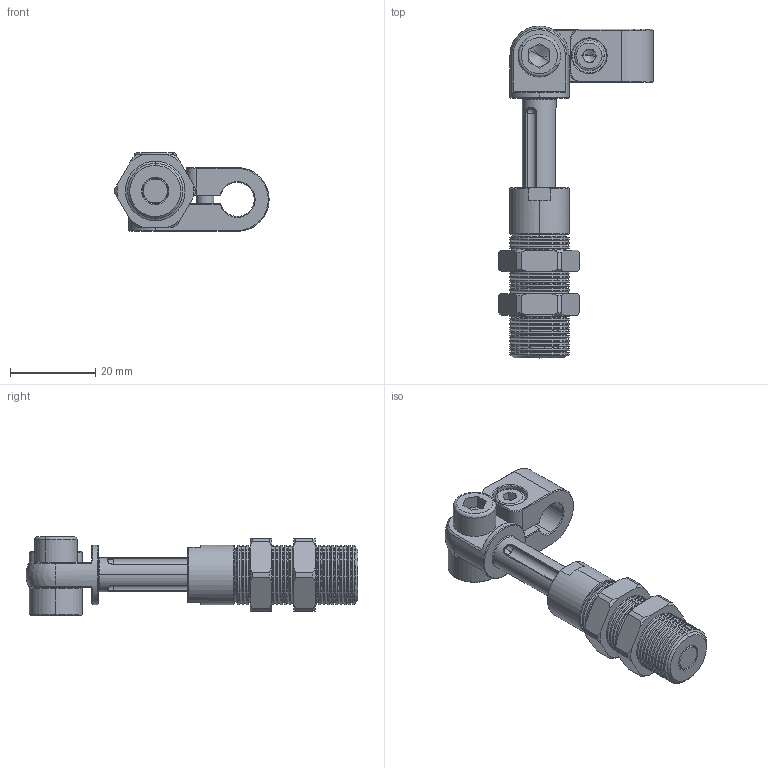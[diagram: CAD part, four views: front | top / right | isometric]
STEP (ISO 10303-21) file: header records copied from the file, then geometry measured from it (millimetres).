
FILE_DESCRIPTION (( 'STEP AP214' ), '1' );
FILE_NAME ('GSRT1421-08.STEP', '2019-11-12T07:54:49', ( '微软用户' ), ( '微软中国' ), 'SwSTEP 2.0', 'SolidWorks 2016', '' );
FILE_SCHEMA (( 'AUTOMOTIVE_DESIGN' ));
Length unit declared in the file: millimetre
Products named in the file (1): GSRT1421-08
Bounding box: 36.25 x 78 x 18.5 mm (x, y, z)
Volume: 12602.3 mm3; surface area: 11650 mm2
Topology: 8 solids, 8 shells, 505 faces, 1127 edges, 642 vertices
Faces by surface type: cone 235, cylinder 149, plane 91, sphere 14, bspline 10, torus 6
Entity records: 22184 total; most frequent: CARTESIAN_POINT 5299, DIRECTION 2498, ORIENTED_EDGE 2238, EDGE_CURVE 1119, AXIS2_PLACEMENT_3D 995, VERTEX_POINT 640, EDGE_LOOP 537, UNCERTAINTY_MEASURE_WITH_UNIT 515
